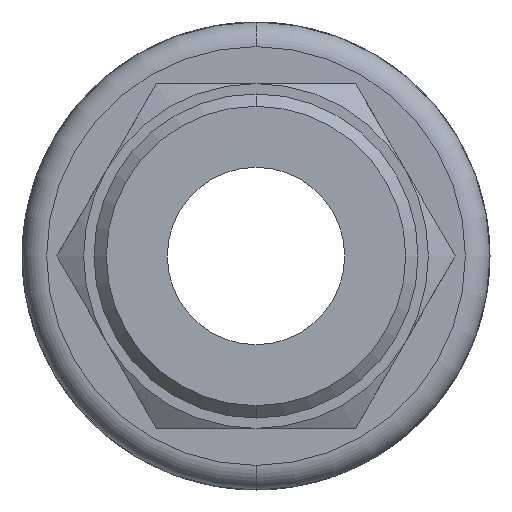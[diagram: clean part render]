
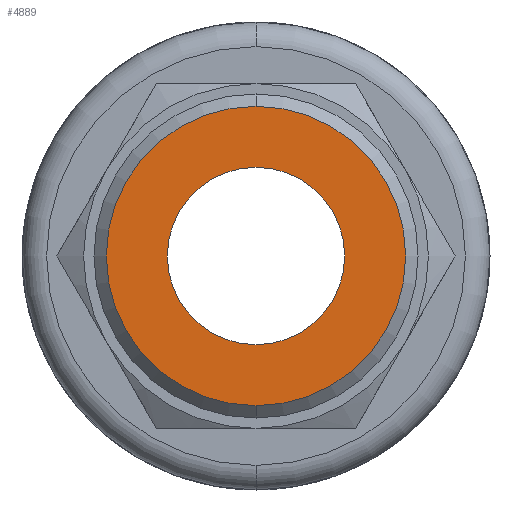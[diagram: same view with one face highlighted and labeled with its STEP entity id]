
A CAD part, front view. The second image highlights one B-rep face of the part: STEP entity #4889.
In plain terms, the highlighted planar face has unit normal (0, -1, 0).
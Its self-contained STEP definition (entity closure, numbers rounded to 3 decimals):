
#2 = DIRECTION ( 'NONE',  ( 0., 0., 1. ) ) ;
#30 = CIRCLE ( 'NONE', #4138, 6.078 ) ;
#323 = EDGE_LOOP ( 'NONE', ( #5587, #3270 ) ) ;
#359 = CARTESIAN_POINT ( 'NONE',  ( 0., 0., -3.6 ) ) ;
#557 = EDGE_CURVE ( 'NONE', #3691, #3918, #4271, .T. ) ;
#1057 = CARTESIAN_POINT ( 'NONE',  ( 0., 0., 6.078 ) ) ;
#1219 = FACE_OUTER_BOUND ( 'NONE', #323, .T. ) ;
#1389 = CARTESIAN_POINT ( 'NONE',  ( 0., 0., 0. ) ) ;
#1423 = ORIENTED_EDGE ( 'NONE', *, *, #2977, .F. ) ;
#1512 = AXIS2_PLACEMENT_3D ( 'NONE', #3208, #3188, #5888 ) ;
#1546 = AXIS2_PLACEMENT_3D ( 'NONE', #1389, #4975, #3593 ) ;
#1689 = CIRCLE ( 'NONE', #1546, 6.078 ) ;
#1725 = DIRECTION ( 'NONE',  ( 0., 1., 0. ) ) ;
#2050 = CARTESIAN_POINT ( 'NONE',  ( 0., 0., 3.6 ) ) ;
#2209 = EDGE_CURVE ( 'NONE', #5799, #2757, #1689, .T. ) ;
#2328 = CIRCLE ( 'NONE', #4199, 3.6 ) ;
#2603 = DIRECTION ( 'NONE',  ( 0., 0., 1. ) ) ;
#2667 = FACE_BOUND ( 'NONE', #3330, .T. ) ;
#2757 = VERTEX_POINT ( 'NONE', #1057 ) ;
#2977 = EDGE_CURVE ( 'NONE', #3918, #3691, #2328, .T. ) ;
#3089 = DIRECTION ( 'NONE',  ( 0., -1., 0. ) ) ;
#3188 = DIRECTION ( 'NONE',  ( 0., -1., 0. ) ) ;
#3208 = CARTESIAN_POINT ( 'NONE',  ( 0., 0., 0. ) ) ;
#3270 = ORIENTED_EDGE ( 'NONE', *, *, #2209, .T. ) ;
#3330 = EDGE_LOOP ( 'NONE', ( #1423, #5717 ) ) ;
#3477 = DIRECTION ( 'NONE',  ( 0., 0., -1. ) ) ;
#3593 = DIRECTION ( 'NONE',  ( 0., 0., 1. ) ) ;
#3691 = VERTEX_POINT ( 'NONE', #2050 ) ;
#3918 = VERTEX_POINT ( 'NONE', #359 ) ;
#4015 = CARTESIAN_POINT ( 'NONE',  ( 0., 0., 0. ) ) ;
#4138 = AXIS2_PLACEMENT_3D ( 'NONE', #4419, #3089, #2603 ) ;
#4199 = AXIS2_PLACEMENT_3D ( 'NONE', #5794, #4824, #3477 ) ;
#4271 = CIRCLE ( 'NONE', #1512, 3.6 ) ;
#4419 = CARTESIAN_POINT ( 'NONE',  ( 0., 0., 0. ) ) ;
#4712 = CARTESIAN_POINT ( 'NONE',  ( 0., 0., -6.078 ) ) ;
#4824 = DIRECTION ( 'NONE',  ( 0., -1., 0. ) ) ;
#4889 = ADVANCED_FACE ( 'NONE', ( #2667, #1219 ), #5358, .F. ) ;
#4975 = DIRECTION ( 'NONE',  ( 0., -1., 0. ) ) ;
#5241 = EDGE_CURVE ( 'NONE', #2757, #5799, #30, .T. ) ;
#5358 = PLANE ( 'NONE',  #5890 ) ;
#5587 = ORIENTED_EDGE ( 'NONE', *, *, #5241, .T. ) ;
#5717 = ORIENTED_EDGE ( 'NONE', *, *, #557, .F. ) ;
#5794 = CARTESIAN_POINT ( 'NONE',  ( 0., 0., 0. ) ) ;
#5799 = VERTEX_POINT ( 'NONE', #4712 ) ;
#5888 = DIRECTION ( 'NONE',  ( 0., 0., -1. ) ) ;
#5890 = AXIS2_PLACEMENT_3D ( 'NONE', #4015, #1725, #2 ) ;
